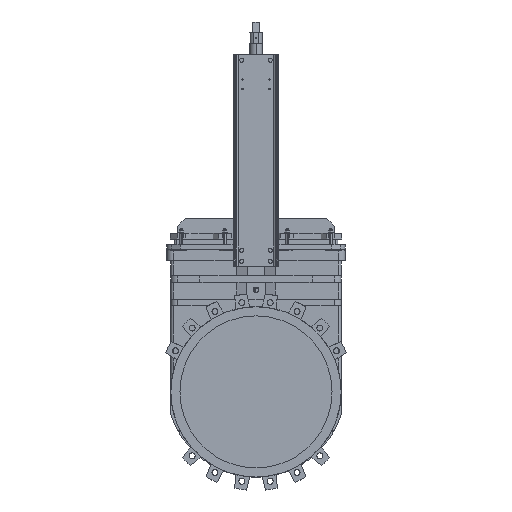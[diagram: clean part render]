
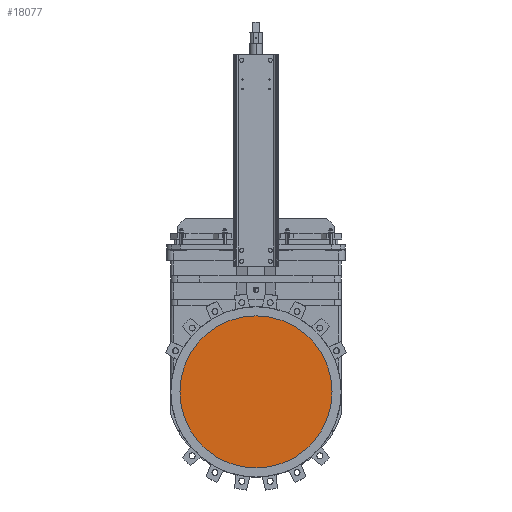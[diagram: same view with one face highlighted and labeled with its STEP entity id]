
A CAD part, top view. The second image highlights one B-rep face of the part: STEP entity #18077.
In plain terms, the highlighted planar face has unit normal (0, 0, 1).
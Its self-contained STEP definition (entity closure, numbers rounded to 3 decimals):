
#17516 = PLANE ( 'NONE',  #17582 ) ;
#17521 = DIRECTION ( 'NONE',  ( 0., 1., 0. ) ) ;
#17522 = VECTOR ( 'NONE', #17521, 1000. ) ;
#17524 = CARTESIAN_POINT ( 'NONE',  ( 314., -393.172, 8. ) ) ;
#17525 = LINE ( 'NONE', #17524, #17522 ) ;
#17535 = DIRECTION ( 'NONE',  ( 0., 1., 0. ) ) ;
#17536 = VECTOR ( 'NONE', #17535, 1000. ) ;
#17537 = CARTESIAN_POINT ( 'NONE',  ( -314., -393.172, 8. ) ) ;
#17538 = LINE ( 'NONE', #17537, #17536 ) ;
#17579 = DIRECTION ( 'NONE',  ( 1., 0., 0. ) ) ;
#17580 = DIRECTION ( 'NONE',  ( 0., 0., 1. ) ) ;
#17581 = CARTESIAN_POINT ( 'NONE',  ( -314., -393.172, 8. ) ) ;
#17582 = AXIS2_PLACEMENT_3D ( 'NONE', #17581, #17580, #17579 ) ;
#17583 = FACE_OUTER_BOUND ( 'NONE', #18080, .T. ) ;
#17782 = ORIENTED_EDGE ( 'NONE', *, *, #33289, .T. ) ;
#17849 = ORIENTED_EDGE ( 'NONE', *, *, #18003, .T. ) ;
#17880 = EDGE_CURVE ( 'NONE', #21324, #33200, #17538, .T. ) ;
#17906 = ORIENTED_EDGE ( 'NONE', *, *, #17880, .F. ) ;
#17973 = ORIENTED_EDGE ( 'NONE', *, *, #21536, .T. ) ;
#18003 = EDGE_CURVE ( 'NONE', #21529, #33046, #17525, .T. ) ;
#18077 = ADVANCED_FACE ( 'NONE', ( #17583 ), #17516, .T. ) ;
#18080 = EDGE_LOOP ( 'NONE', ( #17849, #17782, #17906, #17973 ) ) ;
#19231 = CARTESIAN_POINT ( 'NONE',  ( -314., -75.478, 8. ) ) ;
#19562 = CIRCLE ( 'NONE', #19616, 326.5 ) ;
#19581 = CARTESIAN_POINT ( 'NONE',  ( 314., -75.478, 8. ) ) ;
#19613 = DIRECTION ( 'NONE',  ( 1., 0., 0. ) ) ;
#19614 = DIRECTION ( 'NONE',  ( 0., 0., 1. ) ) ;
#19615 = CARTESIAN_POINT ( 'NONE',  ( 0., 14., 8. ) ) ;
#19616 = AXIS2_PLACEMENT_3D ( 'NONE', #19615, #19614, #19613 ) ;
#21324 = VERTEX_POINT ( 'NONE', #19231 ) ;
#21529 = VERTEX_POINT ( 'NONE', #19581 ) ;
#21536 = EDGE_CURVE ( 'NONE', #21324, #21529, #19562, .T. ) ;
#33046 = VERTEX_POINT ( 'NONE', #35588 ) ;
#33200 = VERTEX_POINT ( 'NONE', #35639 ) ;
#33289 = EDGE_CURVE ( 'NONE', #33046, #33200, #35620, .T. ) ;
#35588 = CARTESIAN_POINT ( 'NONE',  ( 314., 116.743, 8. ) ) ;
#35616 = DIRECTION ( 'NONE',  ( 1., 0., 0. ) ) ;
#35617 = DIRECTION ( 'NONE',  ( 0., 0., 1. ) ) ;
#35618 = CARTESIAN_POINT ( 'NONE',  ( 0., 0., 8. ) ) ;
#35619 = AXIS2_PLACEMENT_3D ( 'NONE', #35618, #35617, #35616 ) ;
#35620 = CIRCLE ( 'NONE', #35619, 335. ) ;
#35639 = CARTESIAN_POINT ( 'NONE',  ( -314., 116.743, 8. ) ) ;
